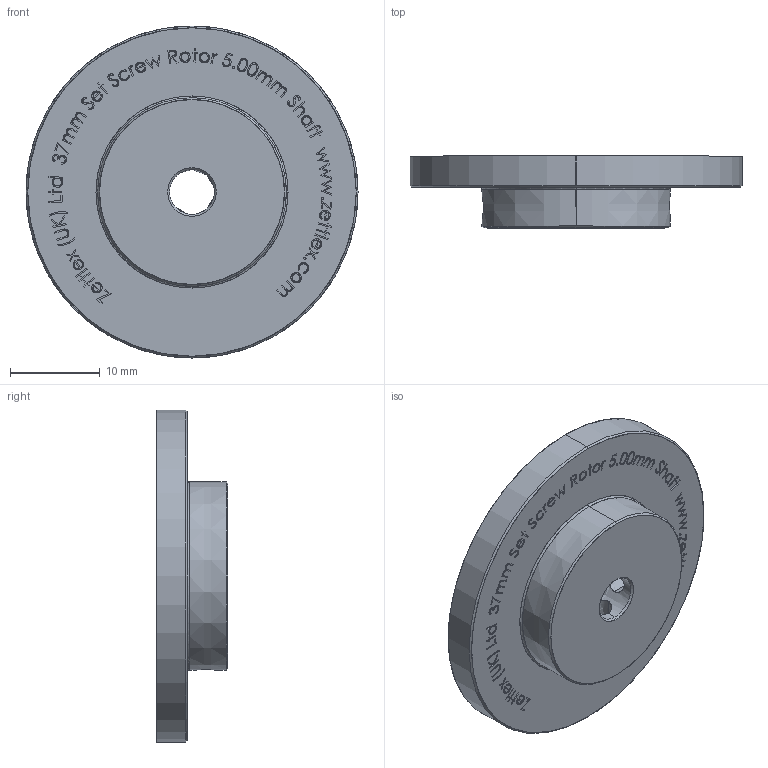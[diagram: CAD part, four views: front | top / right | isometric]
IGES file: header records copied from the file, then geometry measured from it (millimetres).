
Start section: SolidWorks IGES file using analytic representation for surfaces
Global section: file name: C:\Zettlex Data\Mechanical Drawings\4114\37mm Set Screw Rotor 5.00mm Shaft Rev 1-2.IGS; native system: SolidWorks 2017; preprocessor: SolidWorks 2017; author: Nigel; date: 180208.091255; units: millimetre
Bounding box: 37 x 8 x 37 mm (x, y, z)
Surface area: 3054.7 mm2 (no closed solid volume)
Topology: 0 solids, 0 shells, 786 faces, 8686 edges, 8686 vertices
Faces by surface type: bspline 762, revolution 24
